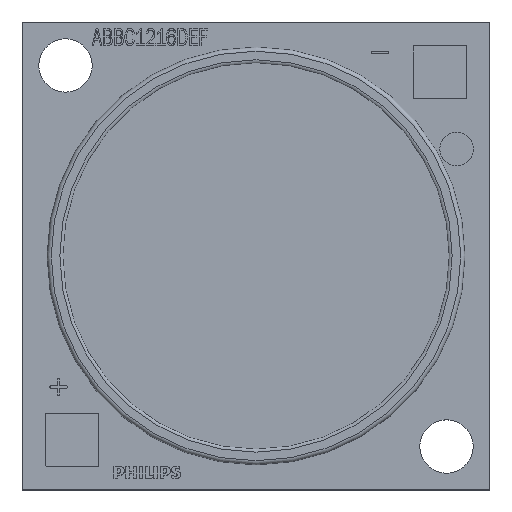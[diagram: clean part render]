
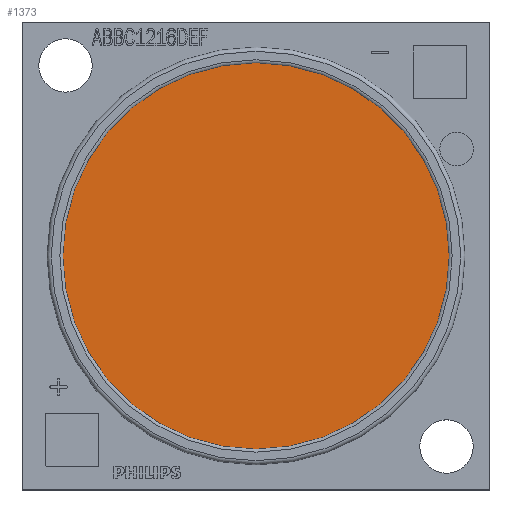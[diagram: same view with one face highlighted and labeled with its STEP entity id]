
A CAD part, top view. The second image highlights one B-rep face of the part: STEP entity #1373.
In plain terms, the highlighted planar face has unit normal (0, 0, 1).
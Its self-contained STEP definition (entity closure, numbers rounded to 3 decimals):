
#925=FACE_OUTER_BOUND('',#4321,.T.);
#1373=ADVANCED_FACE('',(#925),#1771,.T.);
#1771=PLANE('',#9369);
#4321=EDGE_LOOP('',(#6785));
#6785=ORIENTED_EDGE('',*,*,#8846,.F.);
#7614=VERTEX_POINT('',#15005);
#8846=EDGE_CURVE('',#7614,#7614,#8897,.T.);
#8897=CIRCLE('',#9368,11.563);
#9368=AXIS2_PLACEMENT_3D('',#15004,#11325,#11326);
#9369=AXIS2_PLACEMENT_3D('',#15006,#11327,#11328);
#11325=DIRECTION('',(0.,0.,-1.));
#11326=DIRECTION('',(-1.,0.,0.));
#11327=DIRECTION('',(0.,0.,1.));
#11328=DIRECTION('',(-1.,0.,0.));
#15004=CARTESIAN_POINT('',(0.,0.,1.53));
#15005=CARTESIAN_POINT('',(-11.563,0.,1.53));
#15006=CARTESIAN_POINT('',(0.,0.,1.53));
